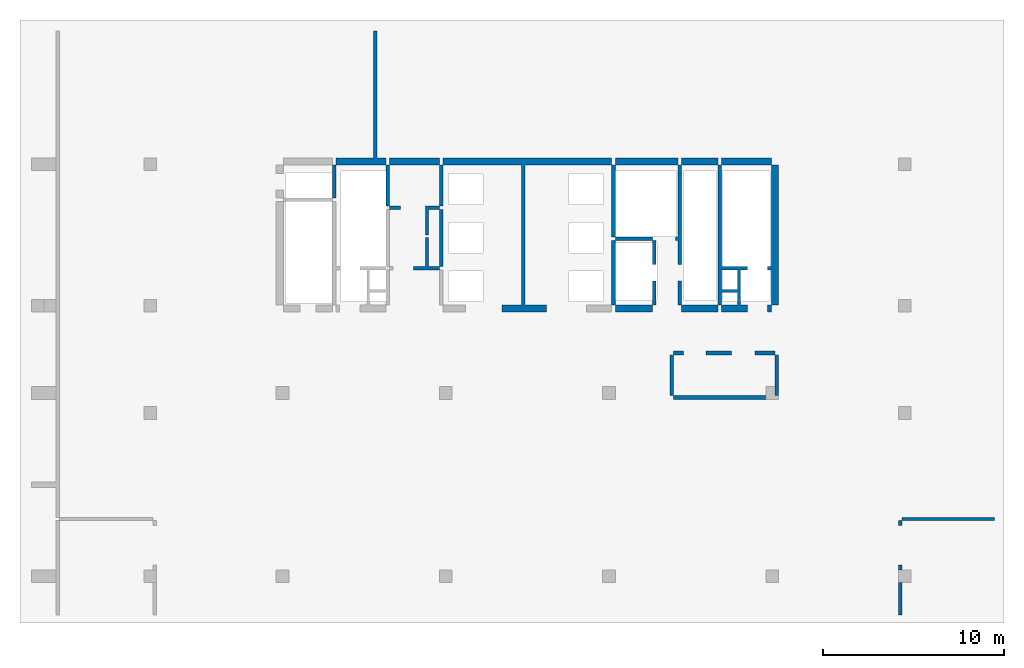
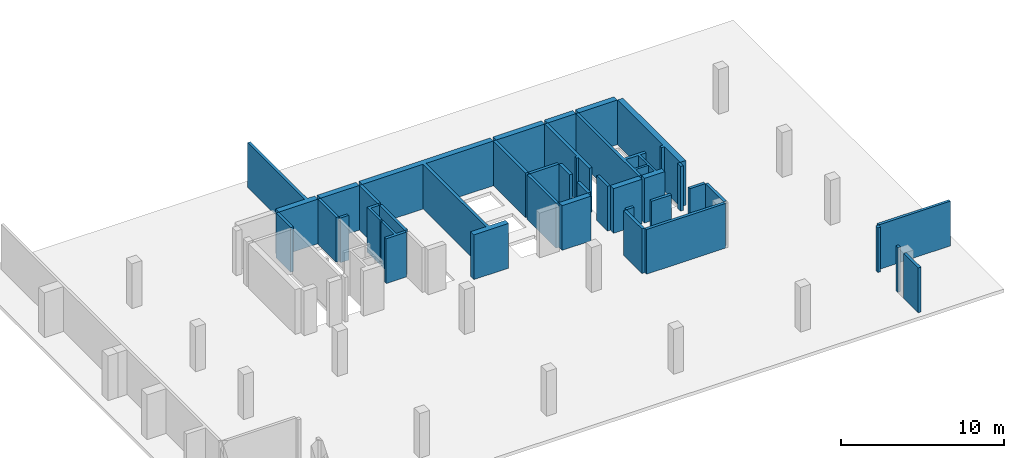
# One storey, part 2 of 2: 35 walls.
"""IFC4 building model written with IfcOpenShell, lengths in millimetres."""

from ifc_helpers import new_model, si_unit, frame, origin, place, context, project, spatial, triangles, element, save


model = new_model("IFC4")

# Units and contexts
model_context = context("Model", 3, precision=0.001, world=origin())
ifc_project = project(units=[si_unit("LENGTHUNIT", "METRE", prefix="MILLI"), si_unit("AREAUNIT", "SQUARE_METRE"), si_unit("VOLUMEUNIT", "CUBIC_METRE")], contexts=[model_context])

# Site, building, storey
site_placement = place(None, origin())
site = spatial("IfcSite", under=ifc_project, at=site_placement, Name="Site", CompositionType="ELEMENT")
building_placement = place(site_placement, origin())
building = spatial("IfcBuilding", under=site, at=building_placement, Name="INNOCEAN", CompositionType="ELEMENT")
storey_placement = place(building_placement, frame((0.0, 0.0, -27000.0)))
storey = spatial("IfcBuildingStorey", under=building, at=storey_placement, Name="B7", CompositionType="ELEMENT", Elevation=-27000.0)

# Walls
wall_1_placement = place(storey_placement, origin())
element("IfcWall", 1, at=wall_1_placement, inside=storey, Name="B7_Walls_B7_015", context=model_context, shape_type="Tessellation", body=[
    triangles([(16226.2, 23222.2, 0.0), (16429.3, 23222.2, 0.0), (16429.3, 23222.2, 3350.0), (16226.2, 23222.2, 3350.0), (16226.2, 25025.8, 0.0), (16226.2, 25025.8, 3350.0), (16429.3, 25025.8, 0.0), (16429.3, 25025.8, 3350.0)], [[1, 2, 3], [1, 3, 4], [5, 1, 4], [5, 4, 6], [7, 5, 6], [7, 6, 8], [2, 7, 8], [2, 8, 3], [5, 2, 1], [5, 7, 2], [3, 6, 4], [8, 6, 3]], closed=True),
])
wall_2_placement = place(storey_placement, origin())
element("IfcWall", 2, at=wall_2_placement, inside=storey, Name="B7_Walls_B7_018", context=model_context, shape_type="Tessellation", body=[
    triangles([(16429.3, 25419.5, 0.0), (16429.3, 25419.5, 3350.0), (18485.6, 25419.5, 3350.0), (18485.6, 25419.5, 0.0), (18485.6, 25420.0, 0.0), (18485.6, 25420.0, 3350.0), (18485.0, 25420.0, 0.0), (18485.0, 25420.0, 3350.0), (18485.0, 25725.0, 0.0), (18485.0, 25725.0, 3350.0), (18485.0, 28925.0, 0.0), (18485.0, 28925.0, 3350.0), (18485.0, 32125.0, 0.0), (18485.0, 32125.0, 3350.0), (18485.0, 32420.0, 0.0), (18485.0, 32420.0, 3350.0), (18675.0, 32420.0, 0.0), (18675.0, 32420.0, 3350.0), (18675.0, 32417.9, 3350.0), (18675.0, 32417.9, 0.0), (18676.0, 32417.9, 0.0), (18676.0, 32417.9, 3350.0), (18676.0, 25419.5, 0.0), (18676.0, 25419.5, 3350.0), (19183.7, 25419.5, 0.0), (19183.7, 25419.5, 3350.0), (19183.7, 25025.8, 0.0), (19183.7, 25025.8, 3350.0), (16429.3, 25025.8, 0.0), (16429.3, 25025.8, 3350.0)], [[1, 2, 3], [4, 1, 3], [5, 4, 3], [5, 3, 6], [7, 5, 6], [7, 6, 8], [9, 7, 8], [9, 8, 10], [11, 9, 10], [11, 10, 12], [13, 11, 12], [13, 12, 14], [15, 13, 14], [15, 14, 16], [17, 15, 16], [17, 16, 18], [17, 18, 19], [20, 17, 19], [21, 20, 19], [21, 19, 22], [23, 21, 22], [23, 22, 24], [25, 23, 24], [25, 24, 26], [27, 25, 26], [27, 26, 28], [29, 27, 28], [29, 28, 30], [1, 29, 30], [1, 30, 2], [23, 25, 27], [4, 23, 27], [5, 23, 4], [9, 5, 7], [9, 23, 5], [29, 4, 27], [21, 11, 13], [20, 21, 13], [15, 17, 20], [15, 20, 13], [1, 4, 29], [21, 23, 9], [21, 9, 11], [26, 24, 28], [24, 3, 28], [24, 6, 3], [6, 10, 8], [24, 10, 6], [3, 30, 28], [12, 22, 14], [22, 19, 14], [18, 16, 19], [19, 16, 14], [3, 2, 30], [24, 22, 10], [10, 22, 12]], closed=True),
])
wall_3_placement = place(storey_placement, origin())
element("IfcWall", 3, at=wall_3_placement, inside=storey, Name="B7_Walls_B7_022", context=model_context, shape_type="Tessellation", body=[
    triangles([(21366.9, 21024.9, 0.0), (21366.9, 21024.9, 3350.0), (21519.3, 21024.9, 3350.0), (21519.3, 21024.9, 0.0), (21519.3, 19449.9, 0.0), (21519.3, 19449.9, 3350.0), (22128.5, 19449.9, 0.0), (22128.5, 19449.9, 3350.0), (22128.5, 19246.7, 0.0), (22128.5, 19246.7, 3350.0), (20694.2, 19246.7, 0.0), (20694.2, 19246.7, 3350.0), (20694.2, 19449.9, 0.0), (20694.2, 19449.9, 3350.0), (21366.9, 19449.9, 0.0), (21366.9, 19449.9, 3350.0)], [[1, 2, 3], [4, 1, 3], [5, 4, 3], [5, 3, 6], [7, 5, 6], [7, 6, 8], [9, 7, 8], [9, 8, 10], [11, 9, 10], [11, 10, 12], [13, 11, 12], [13, 12, 14], [15, 13, 14], [15, 14, 16], [1, 15, 16], [1, 16, 2], [5, 7, 9], [15, 5, 9], [11, 15, 9], [13, 15, 11], [1, 4, 5], [1, 5, 15], [8, 6, 10], [6, 16, 10], [16, 12, 10], [16, 14, 12], [3, 2, 6], [6, 2, 16]], closed=True),
])
wall_4_placement = place(storey_placement, origin())
element("IfcWall", 4, at=wall_4_placement, inside=storey, Name="B7_Walls_B7_024", context=model_context, shape_type="Tessellation", body=[
    triangles([(22331.6, 22574.4, 0.0), (22128.5, 22574.4, 0.0), (22128.5, 22574.4, 3350.0), (22331.6, 22574.4, 3350.0), (22331.6, 19449.9, 0.0), (22331.6, 19449.9, 3350.0), (22128.5, 19449.9, 0.0), (22128.5, 19449.9, 3350.0)], [[1, 2, 3], [1, 3, 4], [5, 1, 4], [5, 4, 6], [7, 5, 6], [7, 6, 8], [2, 7, 8], [2, 8, 3], [1, 5, 7], [2, 1, 7], [6, 4, 8], [4, 3, 8]], closed=True),
])
wall_5_placement = place(storey_placement, origin())
element("IfcWall", 5, at=wall_5_placement, inside=storey, Name="B7_Walls_B7_025", context=model_context, shape_type="Tessellation", body=[
    triangles([(26647.3, 25025.0, 0.0), (26645.0, 25025.0, 0.0), (26645.0, 25025.0, 3350.0), (26647.3, 25025.0, 3350.0), (26647.3, 25025.8, 0.0), (26647.3, 25025.8, 3350.0), (22331.6, 25025.8, 0.0), (22331.6, 25025.8, 3350.0), (22331.6, 25419.5, 0.0), (22331.6, 25419.5, 3350.0), (31623.1, 25419.5, 0.0), (31623.1, 25419.5, 3350.0), (31623.1, 25025.8, 0.0), (31623.1, 25025.8, 3350.0), (26850.4, 25025.8, 3350.0), (26850.4, 25025.8, 0.0), (26850.4, 17316.1, 0.0), (26850.4, 17316.1, 3350.0), (28030.9, 17316.1, 0.0), (28030.9, 17316.1, 3350.0), (28030.9, 16922.4, 0.0), (28030.9, 16922.4, 3350.0), (28030.0, 16922.4, 0.0), (28030.0, 16922.4, 3350.0), (28030.0, 16920.0, 0.0), (28030.0, 16920.0, 3350.0), (25570.0, 16920.0, 3350.0), (25570.0, 16920.0, 0.0), (25570.0, 16922.4, 0.0), (25570.0, 16922.4, 3350.0), (25568.4, 16922.4, 3350.0), (25568.4, 16922.4, 0.0), (25568.4, 17316.1, 0.0), (25568.4, 17316.1, 3350.0), (26645.0, 17316.1, 0.0), (26645.0, 17316.1, 3350.0)], [[1, 2, 3], [1, 3, 4], [5, 1, 4], [5, 4, 6], [7, 5, 6], [7, 6, 8], [9, 7, 8], [9, 8, 10], [11, 9, 10], [11, 10, 12], [13, 11, 12], [13, 12, 14], [15, 13, 14], [16, 13, 15], [17, 16, 15], [17, 15, 18], [19, 17, 18], [19, 18, 20], [21, 19, 20], [21, 20, 22], [23, 21, 22], [23, 22, 24], [25, 23, 24], [25, 24, 26], [25, 26, 27], [28, 25, 27], [29, 28, 27], [29, 27, 30], [29, 30, 31], [32, 29, 31], [33, 32, 31], [33, 31, 34], [35, 33, 34], [35, 34, 36], [3, 35, 36], [2, 35, 3], [19, 21, 23], [17, 23, 25], [17, 19, 23], [28, 17, 25], [28, 35, 17], [29, 35, 28], [33, 29, 32], [33, 35, 29], [16, 11, 13], [1, 16, 17], [1, 17, 35], [5, 16, 1], [2, 1, 35], [5, 7, 9], [5, 9, 16], [16, 9, 11], [22, 20, 24], [24, 18, 26], [20, 18, 24], [18, 27, 26], [36, 27, 18], [36, 30, 27], [30, 34, 31], [36, 34, 30], [12, 15, 14], [15, 4, 18], [18, 4, 36], [15, 6, 4], [4, 3, 36], [8, 6, 10], [10, 6, 15], [10, 15, 12]], closed=True),
])
wall_6_placement = place(storey_placement, origin())
element("IfcWall", 6, at=wall_6_placement, inside=storey, Name="B7_Walls_B7_026", context=model_context, shape_type="Tessellation", body=[
    triangles([(21519.3, 22574.4, 0.0), (22128.5, 22574.4, 0.0), (22128.5, 22574.4, 3350.0), (21519.3, 22574.4, 3350.0), (21519.3, 21177.3, 0.0), (21519.3, 21177.3, 3350.0), (21366.9, 21177.3, 3350.0), (21366.9, 21177.3, 0.0), (21366.9, 22574.4, 0.0), (21366.9, 22574.4, 3350.0), (21366.9, 22765.0, 0.0), (21366.9, 22765.0, 3350.0), (22128.5, 22765.0, 0.0), (22128.5, 22765.0, 3350.0)], [[1, 2, 3], [1, 3, 4], [5, 1, 4], [5, 4, 6], [5, 6, 7], [8, 5, 7], [9, 8, 7], [9, 7, 10], [11, 9, 10], [11, 10, 12], [13, 11, 12], [13, 12, 14], [2, 13, 14], [2, 14, 3], [1, 13, 2], [9, 1, 5], [9, 5, 8], [11, 1, 9], [11, 13, 1], [14, 4, 3], [4, 10, 6], [6, 10, 7], [4, 12, 10], [14, 12, 4]], closed=True),
])
wall_7_placement = place(storey_placement, origin())
element("IfcWall", 7, at=wall_7_placement, inside=storey, Name="B7_Walls_B7_027", context=model_context, shape_type="Tessellation", body=[
    triangles([(19970.7, 22574.4, 0.0), (19970.7, 22765.0, 0.0), (19970.7, 22765.0, 3350.0), (19970.7, 22574.4, 3350.0), (19374.1, 22574.4, 0.0), (19374.1, 22574.4, 3350.0), (19374.1, 22765.0, 0.0), (19374.1, 22765.0, 3350.0)], [[1, 2, 3], [1, 3, 4], [5, 1, 4], [5, 4, 6], [7, 5, 6], [7, 6, 8], [2, 7, 8], [2, 8, 3], [7, 2, 1], [7, 1, 5], [3, 8, 4], [4, 8, 6]], closed=True),
])
wall_8_placement = place(storey_placement, origin())
element("IfcWall", 8, at=wall_8_placement, inside=storey, Name="B7_Walls_B7_028", context=model_context, shape_type="Tessellation", body=[
    triangles([(19183.7, 25025.8, 0.0), (19183.7, 22765.0, 0.0), (19183.7, 22765.0, 3350.0), (19183.7, 25025.8, 3350.0), (19374.1, 25025.8, 0.0), (19374.1, 25025.8, 3350.0), (19374.1, 22765.0, 0.0), (19374.1, 22765.0, 3350.0)], [[1, 2, 3], [1, 3, 4], [5, 1, 4], [5, 4, 6], [7, 5, 6], [7, 6, 8], [2, 7, 8], [2, 8, 3], [1, 5, 7], [1, 7, 2], [6, 4, 8], [8, 4, 3]], closed=True),
])
wall_9_placement = place(storey_placement, origin())
element("IfcWall", 9, at=wall_9_placement, inside=storey, Name="B7_Walls_B7_029", context=model_context, shape_type="Tessellation", body=[
    triangles([(22128.5, 25025.8, 0.0), (22128.5, 22765.0, 0.0), (22128.5, 22765.0, 3350.0), (22128.5, 25025.8, 3350.0), (22331.6, 25025.8, 0.0), (22331.6, 25025.8, 3350.0), (22331.6, 22765.0, 0.0), (22331.6, 22765.0, 3350.0)], [[1, 2, 3], [1, 3, 4], [5, 1, 4], [5, 4, 6], [7, 5, 6], [7, 6, 8], [2, 7, 8], [2, 8, 3], [1, 5, 7], [1, 7, 2], [6, 4, 8], [8, 4, 3]], closed=True),
])
wall_10_placement = place(storey_placement, origin())
element("IfcWall", 10, at=wall_10_placement, inside=storey, Name="B7_Walls_B7_030", context=model_context, shape_type="Tessellation", body=[
    triangles([(22128.5, 25025.8, 0.0), (22128.5, 25419.5, 0.0), (22128.5, 25419.5, 3350.0), (22128.5, 25025.8, 3350.0), (19374.1, 25025.8, 0.0), (19374.1, 25025.8, 3350.0), (19374.1, 25419.5, 0.0), (19374.1, 25419.5, 3350.0)], [[1, 2, 3], [1, 3, 4], [5, 1, 4], [5, 4, 6], [7, 5, 6], [7, 6, 8], [2, 7, 8], [2, 8, 3], [7, 2, 1], [7, 1, 5], [3, 8, 4], [4, 8, 6]], closed=True),
])
wall_11_placement = place(storey_placement, origin())
element("IfcWall", 11, at=wall_11_placement, inside=storey, Name="B7_Walls_B7_031", context=model_context, shape_type="Tessellation", body=[
    triangles([(35024.8, 14572.6, 0.0), (34821.8, 14572.6, 0.0), (34821.8, 14572.6, 3350.0), (35024.8, 14572.6, 3350.0), (35024.8, 12324.5, 0.0), (35024.8, 12324.5, 3350.0), (34821.8, 12324.5, 0.0), (34821.8, 12324.5, 3350.0)], [[1, 2, 3], [1, 3, 4], [5, 1, 4], [5, 4, 6], [7, 5, 6], [7, 6, 8], [2, 7, 8], [2, 8, 3], [2, 1, 5], [2, 5, 7], [4, 3, 6], [6, 3, 8]], closed=True),
])
wall_12_placement = place(storey_placement, origin())
element("IfcWall", 12, at=wall_12_placement, inside=storey, Name="B7_Walls_B7_032", context=model_context, shape_type="Tessellation", body=[
    triangles([(35024.8, 14572.6, 0.0), (35024.8, 14572.6, 3350.0), (35024.8, 14775.8, 3350.0), (35024.8, 14775.8, 0.0), (35570.7, 14775.8, 0.0), (35570.7, 14775.8, 3350.0), (35570.7, 14572.6, 3350.0), (35570.7, 14572.6, 0.0)], [[1, 2, 3], [4, 1, 3], [5, 4, 3], [5, 3, 6], [5, 6, 7], [8, 5, 7], [1, 8, 7], [1, 7, 2], [4, 5, 8], [4, 8, 1], [6, 3, 7], [7, 3, 2]], closed=True),
])
wall_13_placement = place(storey_placement, origin())
element("IfcWall", 13, at=wall_13_placement, inside=storey, Name="B7_Walls_B7_033", context=model_context, shape_type="Tessellation", body=[
    triangles([(38223.5, 14572.6, 0.0), (38223.5, 14575.0, 0.0), (38223.5, 14575.0, 3350.0), (38223.5, 14572.6, 3350.0), (36814.6, 14572.6, 0.0), (36814.6, 14572.6, 3350.0), (36814.6, 14775.8, 3350.0), (36814.6, 14775.8, 0.0), (38223.5, 14775.8, 0.0), (38223.5, 14775.8, 3350.0), (38223.5, 14775.0, 0.0), (38223.5, 14775.0, 3350.0), (38225.0, 14775.0, 0.0), (38225.0, 14775.0, 3350.0), (38225.0, 14575.0, 0.0), (38225.0, 14575.0, 3350.0)], [[1, 2, 3], [1, 3, 4], [5, 1, 4], [5, 4, 6], [5, 6, 7], [8, 5, 7], [9, 8, 7], [9, 7, 10], [11, 9, 10], [11, 10, 12], [13, 11, 12], [13, 12, 14], [15, 13, 14], [15, 14, 16], [2, 15, 16], [2, 16, 3], [11, 13, 15], [11, 15, 2], [5, 2, 1], [8, 9, 11], [8, 11, 2], [8, 2, 5], [14, 12, 16], [16, 12, 3], [3, 6, 4], [10, 7, 12], [12, 7, 3], [3, 7, 6]], closed=True),
])
wall_14_placement = place(storey_placement, origin())
element("IfcWall", 14, at=wall_14_placement, inside=storey, Name="B7_Walls_B7_035", context=model_context, shape_type="Tessellation", body=[
    triangles([(33869.8, 16922.4, 0.0), (33869.8, 17316.1, 0.0), (33869.8, 17316.1, 3350.0), (33869.8, 16922.4, 3350.0), (31826.2, 16922.4, 0.0), (31826.2, 16922.4, 3350.0), (31826.2, 17316.1, 0.0), (31826.2, 17316.1, 3350.0)], [[1, 2, 3], [1, 3, 4], [5, 1, 4], [5, 4, 6], [7, 5, 6], [7, 6, 8], [2, 7, 8], [2, 8, 3], [7, 2, 1], [7, 1, 5], [3, 8, 4], [4, 8, 6]], closed=True),
])
wall_15_placement = place(storey_placement, origin())
element("IfcWall", 15, at=wall_15_placement, inside=storey, Name="B7_Walls_B7_036", context=model_context, shape_type="Tessellation", body=[
    triangles([(37474.6, 16922.4, 0.0), (37474.6, 17316.1, 0.0), (37474.6, 17316.1, 3350.0), (37474.6, 16922.4, 3350.0), (35469.1, 16922.4, 0.0), (35469.1, 16922.4, 3350.0), (35469.1, 17316.1, 0.0), (35469.1, 17316.1, 3350.0)], [[1, 2, 3], [1, 3, 4], [5, 1, 4], [5, 4, 6], [7, 5, 6], [7, 6, 8], [2, 7, 8], [2, 8, 3], [7, 2, 1], [7, 1, 5], [3, 8, 4], [4, 8, 6]], closed=True),
])
wall_16_placement = place(storey_placement, origin())
element("IfcWall", 16, at=wall_16_placement, inside=storey, Name="B7_Walls_B7_037", context=model_context, shape_type="Tessellation", body=[
    triangles([(34072.9, 18649.7, 0.0), (33869.8, 18649.7, 0.0), (33869.8, 18649.7, 3350.0), (34072.9, 18649.7, 3350.0), (34072.9, 17316.1, 0.0), (34072.9, 17316.1, 3350.0), (33869.8, 17316.1, 0.0), (33869.8, 17316.1, 3350.0)], [[1, 2, 3], [1, 3, 4], [5, 1, 4], [5, 4, 6], [7, 5, 6], [7, 6, 8], [2, 7, 8], [2, 8, 3], [2, 1, 5], [2, 5, 7], [4, 3, 6], [6, 3, 8]], closed=True),
])
wall_17_placement = place(storey_placement, origin())
element("IfcWall", 17, at=wall_17_placement, inside=storey, Name="B7_Walls_B7_038", context=model_context, shape_type="Tessellation", body=[
    triangles([(35469.1, 17316.1, 0.0), (35469.1, 18649.7, 0.0), (35469.1, 18649.7, 3350.0), (35469.1, 17316.1, 3350.0), (35266.0, 17316.1, 0.0), (35266.0, 17316.1, 3350.0), (35266.0, 18649.7, 0.0), (35266.0, 18649.7, 3350.0)], [[1, 2, 3], [1, 3, 4], [5, 1, 4], [5, 4, 6], [7, 5, 6], [7, 6, 8], [2, 7, 8], [2, 8, 3], [7, 2, 1], [7, 1, 5], [3, 8, 4], [4, 8, 6]], closed=True),
])
wall_18_placement = place(storey_placement, origin())
element("IfcWall", 18, at=wall_18_placement, inside=storey, Name="B7_Walls_B7_039", context=model_context, shape_type="Tessellation", body=[
    triangles([(37474.6, 19449.9, 0.0), (37474.6, 17316.1, 0.0), (37474.6, 17316.1, 3350.0), (37474.6, 19449.9, 3350.0), (37665.0, 17316.1, 0.0), (37665.0, 17316.1, 3350.0), (37665.0, 16922.4, 0.0), (37665.0, 16922.4, 3350.0), (39099.4, 16922.4, 0.0), (39099.4, 16922.4, 3350.0), (39099.4, 17316.1, 0.0), (39099.4, 17316.1, 3350.0), (38720.0, 17316.1, 0.0), (38720.0, 17316.1, 3350.0), (38720.0, 19245.0, 0.0), (38720.0, 19245.0, 3350.0), (39100.0, 19245.0, 0.0), (39100.0, 19245.0, 3350.0), (39100.0, 19450.0, 0.0), (39100.0, 19450.0, 3350.0), (37665.0, 19450.0, 0.0), (37665.0, 19450.0, 3350.0), (37665.0, 25025.8, 0.0), (37665.0, 25025.8, 3350.0), (37474.6, 25025.8, 0.0), (37474.6, 25025.8, 3350.0), (37665.0, 18014.7, 0.0), (37665.0, 18014.7, 3350.0), (38565.0, 18014.7, 0.0), (38565.0, 18014.7, 3350.0), (38565.0, 17316.1, 0.0), (38565.0, 17316.1, 3350.0), (37665.0, 18167.1, 0.0), (37665.0, 18167.1, 3350.0), (38565.0, 18167.1, 3350.0), (38565.0, 18167.1, 0.0), (37665.0, 19245.0, 0.0), (37665.0, 19245.0, 3350.0), (38565.0, 19245.0, 0.0), (38565.0, 19245.0, 3350.0)], [[1, 2, 3], [1, 3, 4], [2, 5, 6], [2, 6, 3], [5, 7, 8], [5, 8, 6], [7, 9, 10], [7, 10, 8], [9, 11, 12], [9, 12, 10], [11, 13, 14], [11, 14, 12], [13, 15, 16], [13, 16, 14], [15, 17, 18], [15, 18, 16], [19, 20, 18], [17, 19, 18], [19, 21, 22], [19, 22, 20], [21, 23, 24], [21, 24, 22], [23, 25, 26], [23, 26, 24], [25, 1, 4], [25, 4, 26], [5, 27, 28], [5, 28, 6], [29, 30, 28], [27, 29, 28], [29, 31, 32], [29, 32, 30], [5, 6, 32], [31, 5, 32], [33, 34, 35], [36, 33, 35], [33, 37, 38], [33, 38, 34], [39, 40, 38], [37, 39, 38], [39, 36, 35], [39, 35, 40], [13, 11, 9], [31, 13, 9], [7, 31, 9], [29, 13, 31], [5, 31, 7], [27, 5, 2], [33, 29, 27], [33, 36, 29], [33, 27, 2], [15, 19, 17], [39, 15, 36], [39, 19, 15], [21, 39, 37], [21, 19, 39], [1, 37, 33], [1, 21, 37], [1, 33, 2], [25, 23, 21], [25, 21, 1], [15, 13, 29], [15, 29, 36], [12, 14, 10], [14, 32, 10], [32, 8, 10], [14, 30, 32], [32, 6, 8], [6, 28, 3], [30, 34, 28], [35, 34, 30], [28, 34, 3], [20, 16, 18], [16, 40, 35], [20, 40, 16], [40, 22, 38], [20, 22, 40], [38, 4, 34], [22, 4, 38], [34, 4, 3], [24, 26, 22], [22, 26, 4], [14, 16, 30], [30, 16, 35]], closed=True),
])
wall_19_placement = place(storey_placement, origin())
element("IfcWall", 19, at=wall_19_placement, inside=storey, Name="B7_Walls_B7_040", context=model_context, shape_type="Tessellation", body=[
    triangles([(31826.2, 20872.5, 0.0), (31623.1, 20872.5, 0.0), (31623.1, 20872.5, 3350.0), (31826.2, 20872.5, 3350.0), (31826.2, 17316.1, 3350.0), (31826.2, 17316.1, 0.0), (31623.1, 17316.1, 0.0), (31623.1, 17316.1, 3350.0)], [[1, 2, 3], [1, 3, 4], [5, 1, 4], [6, 1, 5], [7, 6, 5], [7, 5, 8], [3, 7, 8], [2, 7, 3], [2, 1, 6], [2, 6, 7], [4, 3, 5], [5, 3, 8]], closed=True),
])
wall_20_placement = place(storey_placement, origin())
element("IfcWall", 20, at=wall_20_placement, inside=storey, Name="B7_Walls_B7_041", context=model_context, shape_type="Tessellation", body=[
    triangles([(34072.9, 19551.5, 0.0), (34072.9, 20872.5, 0.0), (34072.9, 20872.5, 3350.0), (34072.9, 19551.5, 3350.0), (33869.8, 19551.5, 0.0), (33869.8, 19551.5, 3350.0), (33869.8, 20872.5, 0.0), (33869.8, 20872.5, 3350.0)], [[1, 2, 3], [1, 3, 4], [5, 1, 4], [5, 4, 6], [7, 5, 6], [7, 6, 8], [2, 7, 8], [2, 8, 3], [7, 2, 1], [7, 1, 5], [3, 8, 4], [4, 8, 6]], closed=True),
])
wall_21_placement = place(storey_placement, origin())
element("IfcWall", 21, at=wall_21_placement, inside=storey, Name="B7_Walls_B7_042", context=model_context, shape_type="Tessellation", body=[
    triangles([(35126.4, 21075.7, 0.0), (35126.4, 20872.5, 0.0), (35126.4, 20872.5, 3350.0), (35126.4, 21075.7, 3350.0), (35266.0, 21075.7, 0.0), (35266.0, 21075.7, 3350.0), (35266.0, 25025.8, 3350.0), (35266.0, 25025.8, 0.0), (35469.1, 25025.8, 0.0), (35469.1, 25025.8, 3350.0), (35469.1, 21075.7, 3350.0), (35469.1, 21075.7, 0.0), (35469.1, 20872.5, 0.0), (35469.1, 20872.5, 3350.0), (35469.1, 19551.5, 0.0), (35469.1, 19551.5, 3350.0), (35266.0, 19551.5, 0.0), (35266.0, 19551.5, 3350.0), (35266.0, 20872.5, 0.0), (35266.0, 20872.5, 3350.0)], [[1, 2, 3], [1, 3, 4], [5, 1, 4], [5, 4, 6], [7, 5, 6], [8, 5, 7], [9, 8, 7], [9, 7, 10], [11, 9, 10], [12, 9, 11], [13, 12, 11], [13, 11, 14], [15, 13, 14], [15, 14, 16], [17, 15, 16], [17, 16, 18], [19, 17, 18], [19, 18, 20], [2, 19, 20], [2, 20, 3], [19, 13, 15], [19, 15, 17], [12, 13, 19], [5, 12, 19], [1, 19, 2], [1, 5, 19], [8, 9, 12], [8, 12, 5], [14, 20, 16], [16, 20, 18], [14, 11, 20], [11, 6, 20], [20, 4, 3], [6, 4, 20], [10, 7, 11], [11, 7, 6]], closed=True),
])
wall_22_placement = place(storey_placement, origin())
element("IfcWall", 22, at=wall_22_placement, inside=storey, Name="B7_Walls_B7_043", context=model_context, shape_type="Tessellation", body=[
    triangles([(33869.8, 21075.7, 0.0), (31826.2, 21075.7, 0.0), (31826.2, 21075.7, 3350.0), (33869.8, 21075.7, 3350.0), (33869.8, 20872.5, 0.0), (33869.8, 20872.5, 3350.0), (31826.2, 20872.5, 0.0), (31826.2, 20872.5, 3350.0)], [[1, 2, 3], [1, 3, 4], [5, 1, 4], [5, 4, 6], [7, 5, 6], [7, 6, 8], [2, 7, 8], [2, 8, 3], [2, 1, 5], [2, 5, 7], [4, 3, 6], [6, 3, 8]], closed=True),
])
wall_23_placement = place(storey_placement, origin())
element("IfcWall", 23, at=wall_23_placement, inside=storey, Name="B7_Walls_B7_044", context=model_context, shape_type="Tessellation", body=[
    triangles([(31623.1, 21075.7, 0.0), (31826.2, 21075.7, 0.0), (31826.2, 21075.7, 3350.0), (31623.1, 21075.7, 3350.0), (31623.1, 25025.8, 3350.0), (31623.1, 25025.8, 0.0), (31826.2, 25025.8, 0.0), (31826.2, 25025.8, 3350.0)], [[1, 2, 3], [1, 3, 4], [5, 1, 4], [6, 1, 5], [7, 6, 5], [7, 5, 8], [3, 7, 8], [2, 7, 3], [7, 2, 1], [6, 7, 1], [3, 8, 4], [8, 5, 4]], closed=True),
])
wall_24_placement = place(storey_placement, origin())
element("IfcWall", 24, at=wall_24_placement, inside=storey, Name="B7_Walls_B7_045", context=model_context, shape_type="Tessellation", body=[
    triangles([(35266.0, 25419.5, 3350.0), (31826.2, 25419.5, 0.0), (31826.2, 25419.5, 3350.0), (35266.0, 25419.5, 0.0), (35266.0, 25025.8, 0.0), (35266.0, 25025.8, 3350.0), (31826.2, 25025.8, 3350.0), (31826.2, 25025.8, 0.0)], [[1, 2, 3], [4, 2, 1], [5, 4, 1], [5, 1, 6], [7, 5, 6], [8, 5, 7], [2, 8, 7], [2, 7, 3], [2, 4, 5], [2, 5, 8], [1, 3, 6], [6, 3, 7]], closed=True),
])
wall_25_placement = place(storey_placement, origin())
element("IfcWall", 25, at=wall_25_placement, inside=storey, Name="B7_Walls_B7_046", context=model_context, shape_type="Tessellation", body=[
    triangles([(37474.6, 25025.8, 0.0), (37474.6, 25419.5, 0.0), (37474.6, 25419.5, 3350.0), (37474.6, 25025.8, 3350.0), (35469.1, 25025.8, 0.0), (35469.1, 25025.8, 3350.0), (35469.1, 25419.5, 0.0), (35469.1, 25419.5, 3350.0)], [[1, 2, 3], [1, 3, 4], [5, 1, 4], [5, 4, 6], [7, 5, 6], [7, 6, 8], [2, 7, 8], [2, 8, 3], [7, 2, 1], [7, 1, 5], [3, 8, 4], [4, 8, 6]], closed=True),
])
wall_26_placement = place(storey_placement, origin())
element("IfcWall", 26, at=wall_26_placement, inside=storey, Name="B7_Walls_B7_047", context=model_context, shape_type="Tessellation", body=[
    triangles([(47616.5, 220.2, 0.0), (47616.5, 2023.7, 0.0), (47616.5, 2023.7, 3350.0), (47616.5, 220.2, 3350.0), (47413.4, 220.2, 0.0), (47413.4, 220.2, 3350.0), (47413.4, 2023.7, 0.0), (47413.4, 2023.7, 3350.0)], [[1, 2, 3], [1, 3, 4], [5, 1, 4], [5, 4, 6], [7, 5, 6], [7, 6, 8], [2, 7, 8], [2, 8, 3], [7, 2, 1], [7, 1, 5], [3, 8, 4], [4, 8, 6]], closed=True),
])
wall_27_placement = place(storey_placement, origin())
element("IfcWall", 27, at=wall_27_placement, inside=storey, Name="B7_Walls_B7_048", context=model_context, shape_type="Tessellation", body=[
    triangles([(47616.5, 2976.3, 0.0), (47413.4, 2976.3, 0.0), (47413.4, 2976.3, 3350.0), (47616.5, 2976.3, 3350.0), (47616.5, 2722.3, 0.0), (47616.5, 2722.3, 3350.0), (47413.4, 2722.3, 0.0), (47413.4, 2722.3, 3350.0)], [[1, 2, 3], [1, 3, 4], [5, 1, 4], [5, 4, 6], [7, 5, 6], [7, 6, 8], [2, 7, 8], [2, 8, 3], [1, 5, 7], [2, 1, 7], [6, 4, 8], [4, 3, 8]], closed=True),
])
wall_28_placement = place(storey_placement, origin())
element("IfcWall", 28, at=wall_28_placement, inside=storey, Name="B7_Walls_B7_049", context=model_context, shape_type="Tessellation", body=[
    triangles([(47616.5, 5427.7, 0.0), (47413.4, 5427.7, 0.0), (47413.4, 5427.7, 3350.0), (47616.5, 5427.7, 3350.0), (47616.5, 5173.7, 0.0), (47616.5, 5173.7, 3350.0), (47413.4, 5173.7, 0.0), (47413.4, 5173.7, 3350.0)], [[1, 2, 3], [1, 3, 4], [5, 1, 4], [5, 4, 6], [7, 5, 6], [7, 6, 8], [2, 7, 8], [2, 8, 3], [1, 5, 7], [2, 1, 7], [6, 4, 8], [4, 3, 8]], closed=True),
])
wall_29_placement = place(storey_placement, origin())
element("IfcWall", 29, at=wall_29_placement, inside=storey, Name="B7_Walls_B7_050", context=model_context, shape_type="Tessellation", body=[
    triangles([(47616.5, 5427.7, 0.0), (52706.5, 5427.7, 0.0), (52706.5, 5427.7, 3350.0), (47616.5, 5427.7, 3350.0), (47616.5, 5618.2, 0.0), (47616.5, 5618.2, 3350.0), (52706.5, 5618.2, 0.0), (52706.5, 5618.2, 3350.0)], [[1, 2, 3], [1, 3, 4], [5, 1, 4], [5, 4, 6], [7, 5, 6], [7, 6, 8], [2, 7, 8], [2, 8, 3], [5, 2, 1], [5, 7, 2], [3, 6, 4], [8, 6, 3]], closed=True),
])
wall_30_placement = place(storey_placement, origin())
element("IfcWall", 30, at=wall_30_placement, inside=storey, Name="B7_Walls_B7_051", context=model_context, shape_type="Tessellation", body=[
    triangles([(35024.8, 12324.5, 0.0), (35024.8, 12121.3, 0.0), (35024.8, 12121.3, 3350.0), (35024.8, 12324.5, 3350.0), (40622.6, 12324.5, 0.0), (40622.6, 12324.5, 3350.0), (40622.6, 12121.3, 0.0), (40622.6, 12121.3, 3350.0)], [[1, 2, 3], [1, 3, 4], [5, 1, 4], [5, 4, 6], [7, 5, 6], [7, 6, 8], [2, 7, 8], [2, 8, 3], [1, 5, 7], [1, 7, 2], [6, 4, 8], [8, 4, 3]], closed=True),
])
wall_31_placement = place(storey_placement, origin())
element("IfcWall", 31, at=wall_31_placement, inside=storey, Name="B7_Walls_B7_052", context=model_context, shape_type="Tessellation", body=[
    triangles([(40622.6, 14572.6, 0.0), (40622.6, 12324.5, 0.0), (40622.6, 12324.5, 3350.0), (40622.6, 14572.6, 3350.0), (40813.0, 14572.6, 0.0), (40813.0, 14572.6, 3350.0), (40813.0, 12324.5, 0.0), (40813.0, 12324.5, 3350.0)], [[1, 2, 3], [1, 3, 4], [5, 1, 4], [5, 4, 6], [7, 5, 6], [7, 6, 8], [2, 7, 8], [2, 8, 3], [5, 7, 2], [1, 5, 2], [8, 6, 3], [6, 4, 3]], closed=True),
])
wall_32_placement = place(storey_placement, origin())
element("IfcWall", 32, at=wall_32_placement, inside=storey, Name="B7_Walls_B7_053", context=model_context, shape_type="Tessellation", body=[
    triangles([(40622.6, 14775.8, 0.0), (40622.6, 14775.8, 3350.0), (40622.6, 14572.6, 3350.0), (40622.6, 14572.6, 0.0), (39518.2, 14572.6, 3350.0), (39518.2, 14572.6, 0.0), (39518.2, 14775.8, 3350.0), (39518.2, 14775.8, 0.0)], [[1, 2, 3], [4, 1, 3], [4, 3, 5], [6, 4, 5], [6, 5, 7], [8, 6, 7], [8, 7, 2], [1, 8, 2], [8, 1, 4], [8, 4, 6], [2, 7, 3], [3, 7, 5]], closed=True),
])
wall_33_placement = place(storey_placement, origin())
element("IfcWall", 33, at=wall_33_placement, inside=storey, Name="B7_Walls_B7_054", context=model_context, shape_type="Tessellation", body=[
    triangles([(40419.5, 16922.4, 0.0), (40419.5, 17316.1, 0.0), (40419.5, 17316.1, 3350.0), (40419.5, 16922.4, 3350.0), (40216.4, 16922.4, 0.0), (40216.4, 16922.4, 3350.0), (40216.4, 17316.1, 0.0), (40216.4, 17316.1, 3350.0)], [[1, 2, 3], [1, 3, 4], [5, 1, 4], [5, 4, 6], [7, 5, 6], [7, 6, 8], [2, 7, 8], [2, 8, 3], [7, 2, 1], [7, 1, 5], [3, 8, 4], [4, 8, 6]], closed=True),
])
wall_34_placement = place(storey_placement, origin())
element("IfcWall", 34, at=wall_34_placement, inside=storey, Name="B7_Walls_B7_055", context=model_context, shape_type="Tessellation", body=[
    triangles([(40419.5, 19450.0, 0.0), (40215.0, 19450.0, 0.0), (40215.0, 19450.0, 3350.0), (40419.5, 19450.0, 3350.0), (40419.5, 25025.8, 0.0), (40419.5, 25025.8, 3350.0), (40813.0, 25025.8, 0.0), (40813.0, 25025.8, 3350.0), (40813.0, 19449.9, 0.0), (40813.0, 19449.9, 3350.0), (40813.0, 17316.1, 0.0), (40813.0, 17316.1, 3350.0), (40419.5, 17316.1, 0.0), (40419.5, 17316.1, 3350.0), (40419.5, 19245.0, 0.0), (40419.5, 19245.0, 3350.0), (40215.0, 19245.0, 0.0), (40215.0, 19245.0, 3350.0)], [[1, 2, 3], [1, 3, 4], [5, 1, 4], [5, 4, 6], [7, 5, 6], [7, 6, 8], [9, 7, 8], [9, 8, 10], [11, 9, 10], [11, 10, 12], [13, 11, 12], [13, 12, 14], [15, 13, 14], [15, 14, 16], [17, 15, 16], [17, 16, 18], [17, 18, 3], [2, 17, 3], [15, 9, 11], [15, 11, 13], [1, 9, 15], [2, 15, 17], [2, 1, 15], [7, 9, 1], [5, 7, 1], [10, 16, 12], [12, 16, 14], [10, 4, 16], [16, 3, 18], [4, 3, 16], [10, 8, 4], [8, 6, 4]], closed=True),
])
wall_35_placement = place(storey_placement, origin())
element("IfcWall", 35, at=wall_35_placement, inside=storey, Name="B7_Walls_B7_056", context=model_context, shape_type="Tessellation", body=[
    triangles([(40419.5, 25025.8, 0.0), (40419.5, 25419.5, 0.0), (40419.5, 25419.5, 3350.0), (40419.5, 25025.8, 3350.0), (37665.0, 25025.8, 0.0), (37665.0, 25025.8, 3350.0), (37665.0, 25419.5, 0.0), (37665.0, 25419.5, 3350.0)], [[1, 2, 3], [1, 3, 4], [5, 1, 4], [5, 4, 6], [7, 5, 6], [7, 6, 8], [2, 7, 8], [2, 8, 3], [7, 2, 1], [7, 1, 5], [3, 8, 4], [4, 8, 6]], closed=True),
])

save(model, "model.ifc")
